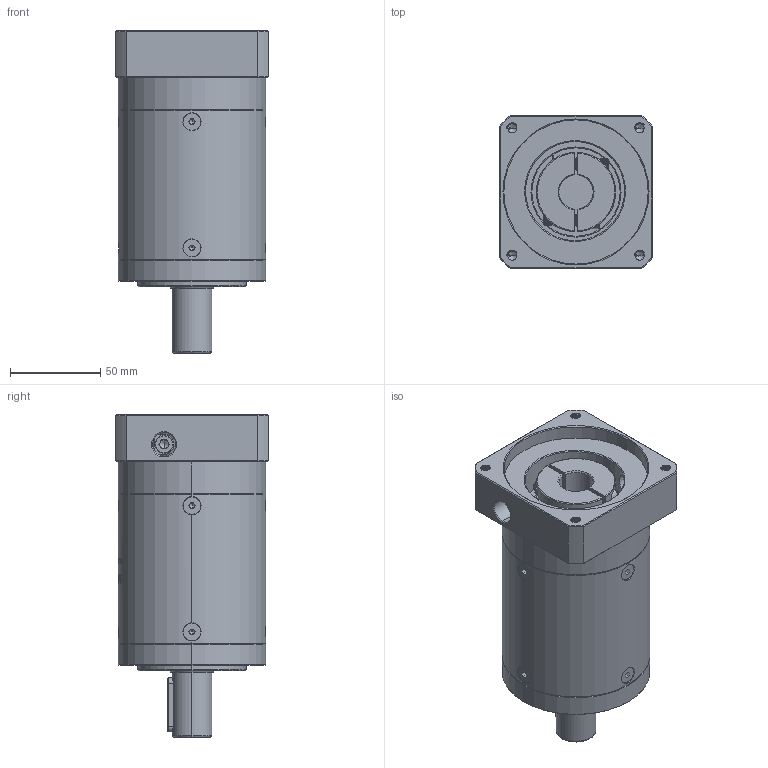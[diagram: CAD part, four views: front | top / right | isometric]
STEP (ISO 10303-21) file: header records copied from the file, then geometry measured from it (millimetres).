
FILE_DESCRIPTION (( 'STEP AP214' ), '1' );
FILE_NAME ('ZE80-D22-L3-19-80-100-M6.step', '2022-05-08T05:55:54', ( '' ), ( 'Microsoft' ), 'SwSTEP 2.0', 'SolidWorks 2016', '' );
FILE_SCHEMA (( 'AUTOMOTIVE_DESIGN' ));
Length unit declared in the file: millimetre
Products named in the file (1): ZE80-D22-L3-19-80-100-M6
Bounding box: 85 x 85 x 179 mm (x, y, z)
Volume: 717244.4 mm3; surface area: 95681.2 mm2
Topology: 13 solids, 13 shells, 2064 faces, 5365 edges, 3390 vertices
Faces by surface type: plane 891, cylinder 500, bspline 332, cone 324, torus 17
Entity records: 118356 total; most frequent: CARTESIAN_POINT 49480, ORIENTED_EDGE 10654, DIRECTION 8180, EDGE_CURVE 5327, VERTEX_POINT 3390, VECTOR 2860, LINE 2860, AXIS2_PLACEMENT_3D 2660
